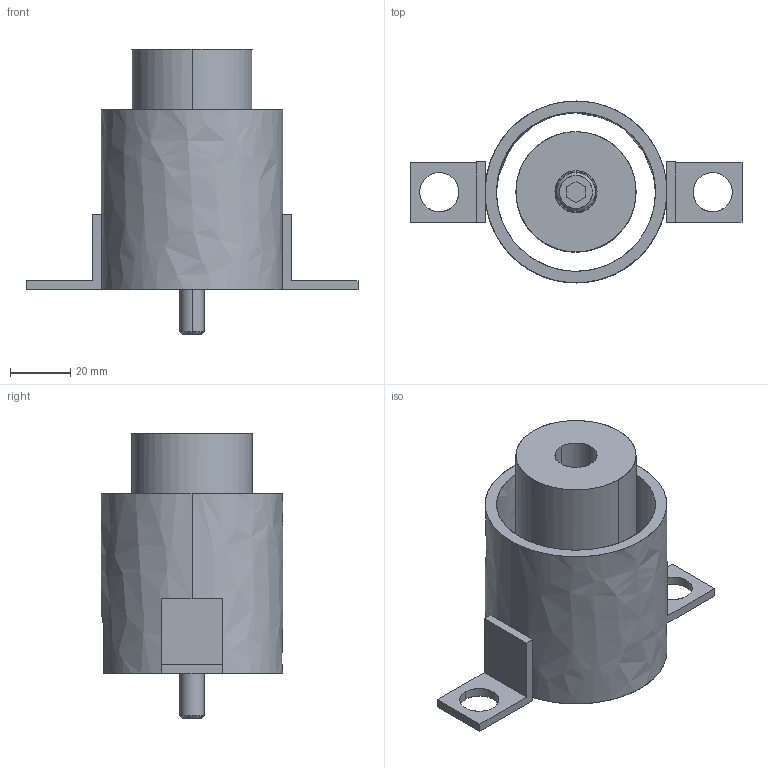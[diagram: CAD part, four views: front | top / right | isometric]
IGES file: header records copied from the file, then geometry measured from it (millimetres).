
Global section: file name: E:\UnigraphicsGraphicData\MISUMI_PRESS-PARTS\IGES\3d_phbt40-80-60-r_07065_r00.igs; native system: NX V5.0; preprocessor: UGS NX IGES V5.0; author: MISUMI; date: 20110105.162246; units: millimetre
Bounding box: 110.5 x 60.5 x 95 mm (x, y, z)
Surface area: 46677.5 mm2 (no closed solid volume)
Topology: 0 solids, 0 shells, 64 faces, 472 edges, 472 vertices
Faces by surface type: bspline 64
